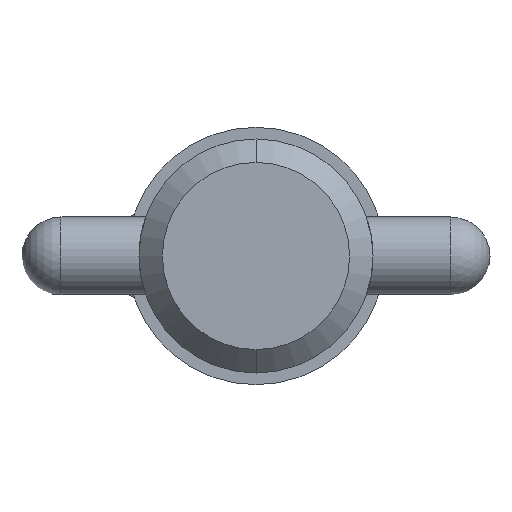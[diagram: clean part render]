
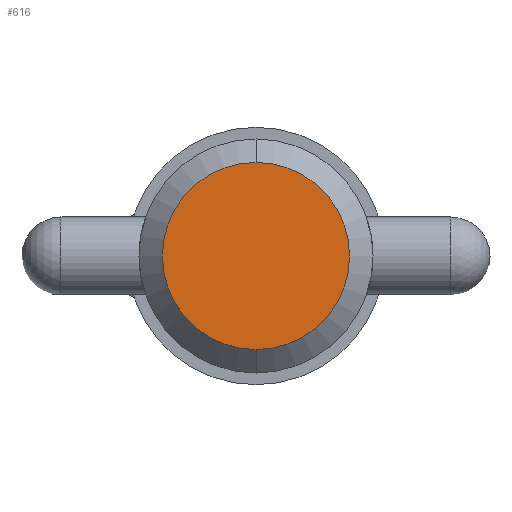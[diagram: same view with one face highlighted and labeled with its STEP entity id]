
A CAD part, left-side view. The second image highlights one B-rep face of the part: STEP entity #616.
In plain terms, the highlighted planar face has unit normal (-1, 0, 0).
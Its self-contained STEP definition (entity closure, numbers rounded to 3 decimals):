
#6 = DIRECTION ( 'NONE',  ( 0., 0., -1. ) ) ;
#24 = AXIS2_PLACEMENT_3D ( 'NONE', #162, #818, #6 ) ;
#52 = EDGE_CURVE ( 'NONE', #1009, #280, #108, .T. ) ;
#108 = CIRCLE ( 'NONE', #24, 7.62 ) ;
#154 = DIRECTION ( 'NONE',  ( -1., 0., 0. ) ) ;
#160 = AXIS2_PLACEMENT_3D ( 'NONE', #1040, #154, #299 ) ;
#162 = CARTESIAN_POINT ( 'NONE',  ( 0., 0., 0. ) ) ;
#177 = EDGE_LOOP ( 'NONE', ( #460, #292 ) ) ;
#227 = FACE_OUTER_BOUND ( 'NONE', #177, .T. ) ;
#280 = VERTEX_POINT ( 'NONE', #493 ) ;
#292 = ORIENTED_EDGE ( 'NONE', *, *, #52, .F. ) ;
#299 = DIRECTION ( 'NONE',  ( 0., 0., 1. ) ) ;
#381 = PLANE ( 'NONE',  #160 ) ;
#388 = DIRECTION ( 'NONE',  ( 0., 0., -1. ) ) ;
#460 = ORIENTED_EDGE ( 'NONE', *, *, #763, .F. ) ;
#493 = CARTESIAN_POINT ( 'NONE',  ( 0., 0., -7.62 ) ) ;
#520 = CARTESIAN_POINT ( 'NONE',  ( 0., 0., 7.62 ) ) ;
#536 = CARTESIAN_POINT ( 'NONE',  ( 0., 0., 0. ) ) ;
#592 = DIRECTION ( 'NONE',  ( 1., 0., 0. ) ) ;
#616 = ADVANCED_FACE ( 'NONE', ( #227 ), #381, .T. ) ;
#727 = AXIS2_PLACEMENT_3D ( 'NONE', #536, #592, #388 ) ;
#763 = EDGE_CURVE ( 'NONE', #280, #1009, #779, .T. ) ;
#779 = CIRCLE ( 'NONE', #727, 7.62 ) ;
#818 = DIRECTION ( 'NONE',  ( 1., 0., 0. ) ) ;
#1009 = VERTEX_POINT ( 'NONE', #520 ) ;
#1040 = CARTESIAN_POINT ( 'NONE',  ( 0., 0., 0. ) ) ;
